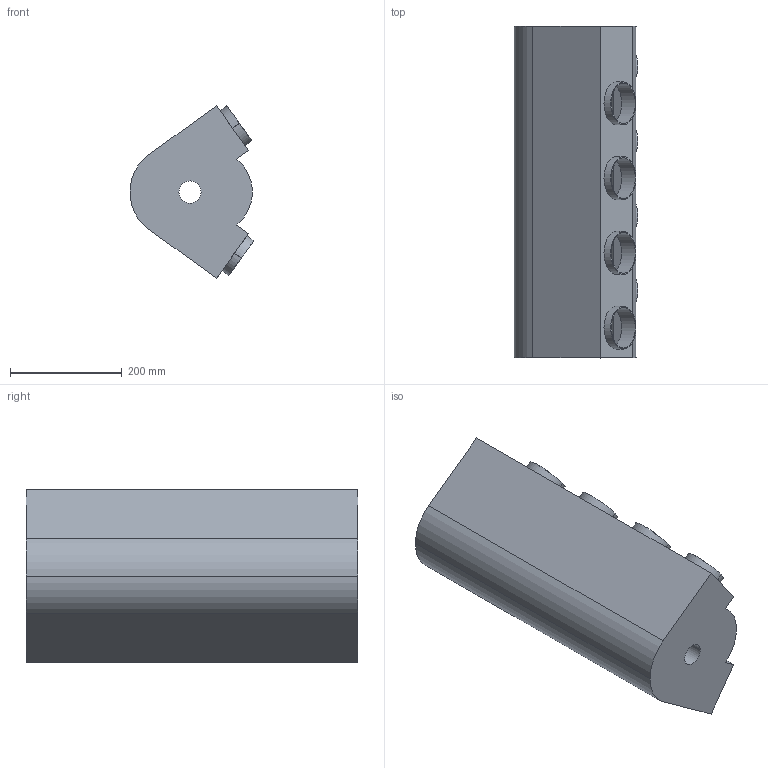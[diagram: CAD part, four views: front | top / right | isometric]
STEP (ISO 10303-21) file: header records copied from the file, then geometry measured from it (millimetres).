
FILE_DESCRIPTION(('CATIA V5 STEP Exchange'),'2;1');
FILE_NAME('C:\Documents and Settings\ABHIJEET\Desktop\engine box.stp','2011-10-19T17:02:51+00:00',('none'),('none'),'CATIA Version 5 Release 19 GA (IN-10)','CATIA V5 STEP AP203','none');
FILE_SCHEMA(('CONFIG_CONTROL_DESIGN'));
Length unit declared in the file: millimetre
Products named in the file (1): Part5
Bounding box: 221.69 x 595 x 309.3 mm (x, y, z)
Volume: 4363131.8 mm3; surface area: 1320443.3 mm2
Topology: 1 solids, 1 shells, 98 faces, 258 edges, 172 vertices
Faces by surface type: cylinder 62, plane 36
Entity records: 2930 total; most frequent: CARTESIAN_POINT 595, ORIENTED_EDGE 516, DIRECTION 366, EDGE_CURVE 258, AXIS2_PLACEMENT_3D 183, VERTEX_POINT 172, EDGE_LOOP 126, VECTOR 123
